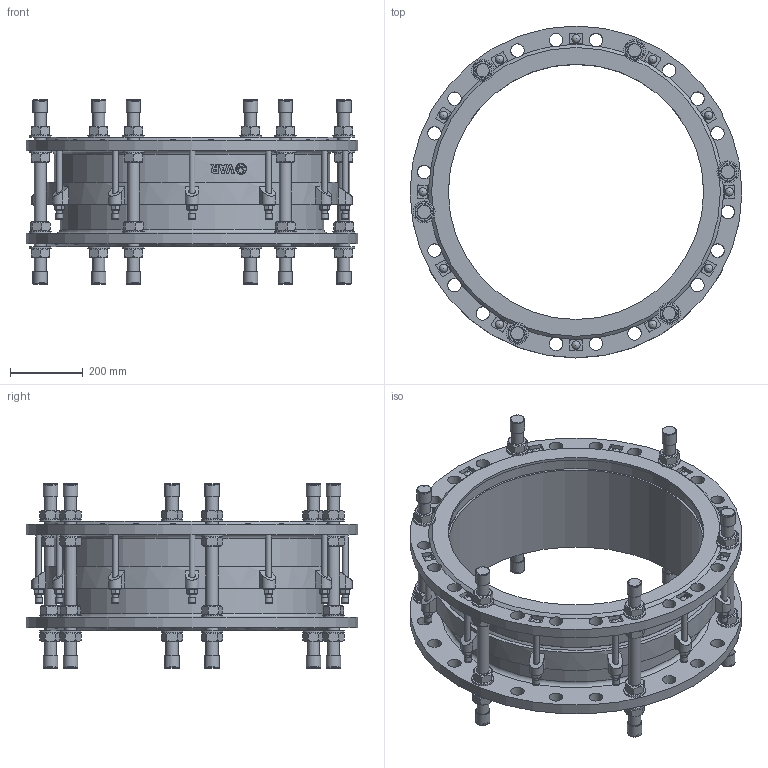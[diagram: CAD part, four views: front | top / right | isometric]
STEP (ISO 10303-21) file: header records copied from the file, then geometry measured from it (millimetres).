
FILE_DESCRIPTION(('STEP AP242'), '1');
FILE_NAME('Ìîíòàæíàÿ âñòàâêà', '', ('UNSPECIFIED'), ('UNSPECIFIED'), 'C3D Converter', 'C3D Toolkit', '');
FILE_SCHEMA(('AP242_MANAGED_MODEL_BASED_3D_ENGINEERING_MIM_LF { 1 0 10303 442 1 1 4 }'));
Length unit declared in the file: millimetre
Products named in the file (13): ШМ.М16.310
Assembly tree (118 placements, depth 2):
  (unnamed)
    (unnamed)
    (unnamed)
    (unnamed)
    (unnamed)  x24
    (unnamed)  x24
    ШМ.М16.310  x6
    (unnamed)  x12
    (unnamed)
    (unnamed)  x12
    (unnamed)  x12
    (unnamed)  x12
    (unnamed)  x12
Bounding box: 910 x 910 x 506.6 mm (x, y, z)
Volume: 32712860.5 mm3; surface area: 4775921.8 mm2
Topology: 118 solids, 118 shells, 1317 faces, 2987 edges, 1897 vertices
Faces by surface type: plane 778, cylinder 316, cone 174, torus 26, sphere 12, extrusion 11
Full cylindrical faces by diameter (mm): 16 x36, 17 x12, 18 x12, 19.2 x12, 30 x12, 30.201 x1, 33 x42, 34 x24, 37 x48, 39.6 x12, 60 x24, 700 x2, 722 x2, 733 x2, 755 x1, 777 x1, 781 x1, 803 x1, 910 x2
Entity records: 26780 total; most frequent: CARTESIAN_POINT 12203, DIRECTION 2428, ORIENTED_EDGE 2206, EDGE_CURVE 1103, AXIS2_PLACEMENT_3D 965, VERTEX_POINT 796, EDGE_LOOP 663, FACE_BOUND 509
